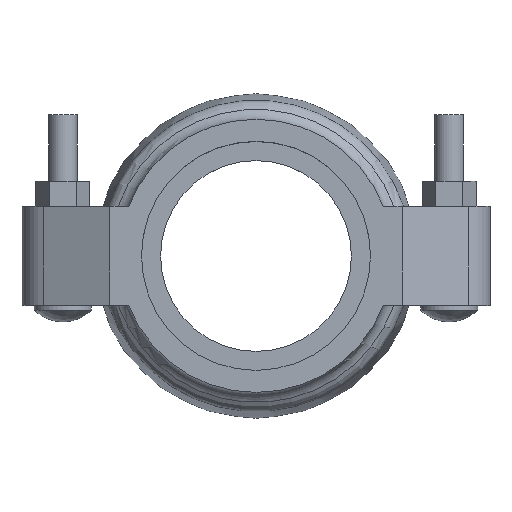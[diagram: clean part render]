
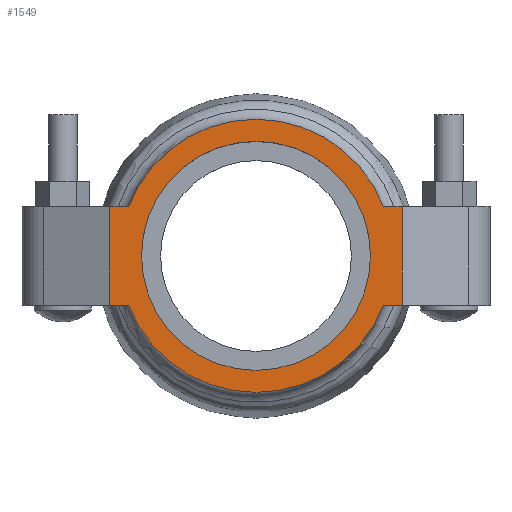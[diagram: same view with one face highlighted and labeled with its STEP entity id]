
A CAD part, top view. The second image highlights one B-rep face of the part: STEP entity #1549.
In plain terms, the highlighted planar face has unit normal (0, 0, 1).
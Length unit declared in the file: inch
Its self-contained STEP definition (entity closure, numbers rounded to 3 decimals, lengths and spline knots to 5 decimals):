
#103=FACE_BOUND('',#301,.T.);
#141=PLANE('',#1695);
#212=FACE_OUTER_BOUND('',#300,.T.);
#300=EDGE_LOOP('',(#1292,#1293,#1294,#1295,#1296,#1297,#1298,#1299));
#301=EDGE_LOOP('',(#1300));
#372=LINE('',#2456,#481);
#384=LINE('',#2585,#493);
#391=LINE('',#2731,#500);
#397=LINE('',#2778,#506);
#406=LINE('',#2851,#515);
#407=LINE('',#2853,#516);
#481=VECTOR('',#1907,0.3937);
#493=VECTOR('',#1939,0.3937);
#500=VECTOR('',#1972,0.3937);
#506=VECTOR('',#1986,0.3937);
#515=VECTOR('',#2007,0.3937);
#516=VECTOR('',#2010,0.3937);
#544=CIRCLE('',#1597,1.5);
#585=CIRCLE('',#1694,1.789);
#586=CIRCLE('',#1696,1.789);
#610=VERTEX_POINT('',#2182);
#669=VERTEX_POINT('',#2440);
#670=VERTEX_POINT('',#2455);
#692=VERTEX_POINT('',#2582);
#693=VERTEX_POINT('',#2584);
#707=VERTEX_POINT('',#2715);
#708=VERTEX_POINT('',#2730);
#718=VERTEX_POINT('',#2775);
#719=VERTEX_POINT('',#2777);
#754=EDGE_CURVE('',#610,#610,#544,.T.);
#834=EDGE_CURVE('',#669,#670,#372,.T.);
#860=EDGE_CURVE('',#692,#693,#384,.T.);
#883=EDGE_CURVE('',#707,#708,#391,.T.);
#894=EDGE_CURVE('',#718,#719,#397,.T.);
#908=EDGE_CURVE('',#708,#718,#406,.T.);
#909=EDGE_CURVE('',#692,#670,#407,.T.);
#920=EDGE_CURVE('',#719,#669,#585,.T.);
#921=EDGE_CURVE('',#693,#707,#586,.T.);
#1292=ORIENTED_EDGE('',*,*,#921,.F.);
#1293=ORIENTED_EDGE('',*,*,#860,.F.);
#1294=ORIENTED_EDGE('',*,*,#909,.T.);
#1295=ORIENTED_EDGE('',*,*,#834,.F.);
#1296=ORIENTED_EDGE('',*,*,#920,.F.);
#1297=ORIENTED_EDGE('',*,*,#894,.F.);
#1298=ORIENTED_EDGE('',*,*,#908,.F.);
#1299=ORIENTED_EDGE('',*,*,#883,.F.);
#1300=ORIENTED_EDGE('',*,*,#754,.T.);
#1549=ADVANCED_FACE('',(#212,#103),#141,.T.);
#1597=AXIS2_PLACEMENT_3D('',#2184,#1765,#1766);
#1694=AXIS2_PLACEMENT_3D('',#2875,#2048,#2049);
#1695=AXIS2_PLACEMENT_3D('',#2876,#2050,#2051);
#1696=AXIS2_PLACEMENT_3D('',#2877,#2052,#2053);
#1765=DIRECTION('center_axis',(0.,0.,-1.));
#1766=DIRECTION('ref_axis',(1.,0.,0.));
#1907=DIRECTION('',(1.,0.,0.));
#1939=DIRECTION('',(-1.,0.,0.));
#1972=DIRECTION('',(-1.,0.,0.));
#1986=DIRECTION('',(1.,0.,0.));
#2007=DIRECTION('',(0.,1.,0.));
#2010=DIRECTION('',(0.,1.,0.));
#2048=DIRECTION('center_axis',(0.,0.,-1.));
#2049=DIRECTION('ref_axis',(-1.,0.,0.));
#2050=DIRECTION('center_axis',(0.,0.,1.));
#2051=DIRECTION('ref_axis',(-1.,0.,0.));
#2052=DIRECTION('center_axis',(0.,0.,-1.));
#2053=DIRECTION('ref_axis',(-1.,0.,0.));
#2182=CARTESIAN_POINT('',(-1.5,0.,1.125));
#2184=CARTESIAN_POINT('Origin',(0.,0.,1.125));
#2440=CARTESIAN_POINT('',(1.66752,0.648,1.125));
#2455=CARTESIAN_POINT('',(1.915,0.648,1.125));
#2456=CARTESIAN_POINT('',(-1.915,0.648,1.125));
#2582=CARTESIAN_POINT('',(1.915,-0.648,1.125));
#2584=CARTESIAN_POINT('',(1.66752,-0.648,1.125));
#2585=CARTESIAN_POINT('',(-1.915,-0.648,1.125));
#2715=CARTESIAN_POINT('',(-1.66752,-0.648,1.125));
#2730=CARTESIAN_POINT('',(-1.915,-0.648,1.125));
#2731=CARTESIAN_POINT('',(-1.915,-0.648,1.125));
#2775=CARTESIAN_POINT('',(-1.915,0.648,1.125));
#2777=CARTESIAN_POINT('',(-1.66752,0.648,1.125));
#2778=CARTESIAN_POINT('',(-1.915,0.648,1.125));
#2851=CARTESIAN_POINT('',(-1.915,0.,1.125));
#2853=CARTESIAN_POINT('',(1.915,0.,1.125));
#2875=CARTESIAN_POINT('Origin',(0.,0.,
1.125));
#2876=CARTESIAN_POINT('Origin',(0.,-1.789,1.125));
#2877=CARTESIAN_POINT('Origin',(0.,0.,
1.125));
